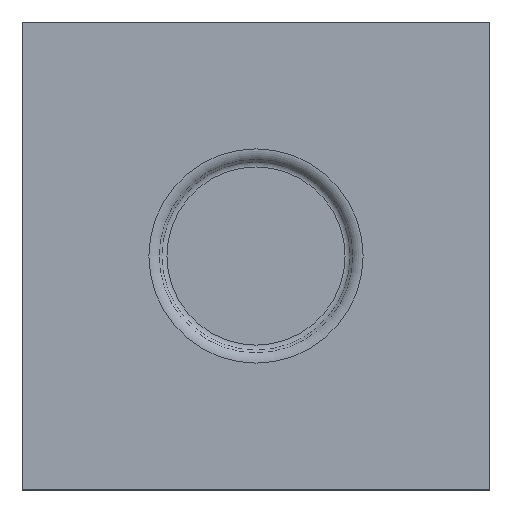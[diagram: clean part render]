
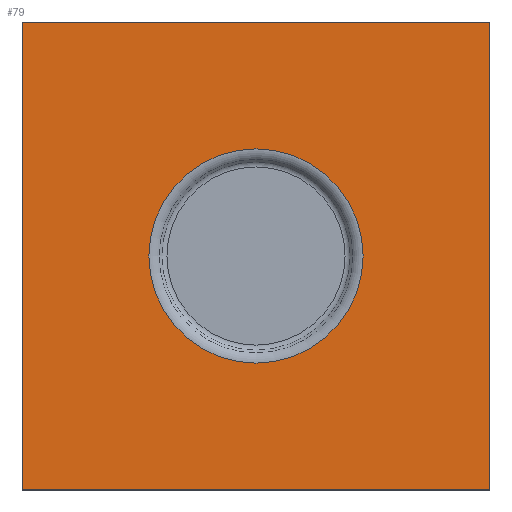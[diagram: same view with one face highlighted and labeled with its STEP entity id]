
A CAD part, top view. The second image highlights one B-rep face of the part: STEP entity #79.
In plain terms, the highlighted planar face has unit normal (0, 0, 1).
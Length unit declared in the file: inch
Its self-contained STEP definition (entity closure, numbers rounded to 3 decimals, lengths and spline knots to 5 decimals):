
#79=ADVANCED_FACE('',(#101,#102),#103,.T.);
#101=FACE_OUTER_BOUND('',#137,.T.);
#102=FACE_BOUND('',#138,.T.);
#103=PLANE('',#139);
#137=EDGE_LOOP('',(#181,#182,#183,#184));
#138=EDGE_LOOP('',(#185));
#139=AXIS2_PLACEMENT_3D('',#186,#187,#188);
#181=ORIENTED_EDGE('',*,*,#248,.T.);
#182=ORIENTED_EDGE('',*,*,#249,.T.);
#183=ORIENTED_EDGE('',*,*,#250,.T.);
#184=ORIENTED_EDGE('',*,*,#251,.T.);
#185=ORIENTED_EDGE('',*,*,#244,.F.);
#186=CARTESIAN_POINT('',(-1.24065,-0.51097,0.039));
#187=DIRECTION('',(0.0,0.0,1.0));
#188=DIRECTION('',(1.0,0.0,0.0));
#244=EDGE_CURVE('',#264,#264,#265,.T.);
#248=EDGE_CURVE('',#272,#273,#274,.F.);
#249=EDGE_CURVE('',#273,#275,#276,.F.);
#250=EDGE_CURVE('',#275,#277,#278,.F.);
#251=EDGE_CURVE('',#277,#272,#279,.F.);
#264=VERTEX_POINT('',#300);
#265=CIRCLE('',#301,0.45784);
#272=VERTEX_POINT('',#308);
#273=VERTEX_POINT('',#309);
#274=LINE('',#310,#311);
#275=VERTEX_POINT('',#312);
#276=LINE('',#313,#314);
#277=VERTEX_POINT('',#315);
#278=LINE('',#316,#317);
#279=LINE('',#318,#319);
#300=CARTESIAN_POINT('',(-0.78281,-0.51097,0.039));
#301=AXIS2_PLACEMENT_3D('',#348,#349,#350);
#308=CARTESIAN_POINT('',(-0.24065,-1.51097,0.039));
#309=CARTESIAN_POINT('',(-0.24065,0.48903,0.039));
#310=CARTESIAN_POINT('',(-0.24065,-0.51097,0.039));
#311=VECTOR('',#360,1.0);
#312=CARTESIAN_POINT('',(-2.24065,0.48903,0.039));
#313=CARTESIAN_POINT('',(-1.24065,0.48903,0.039));
#314=VECTOR('',#361,1.0);
#315=CARTESIAN_POINT('',(-2.24065,-1.51097,0.039));
#316=CARTESIAN_POINT('',(-2.24065,-0.51097,0.039));
#317=VECTOR('',#362,1.0);
#318=CARTESIAN_POINT('',(-1.24065,-1.51097,0.039));
#319=VECTOR('',#363,1.0);
#348=CARTESIAN_POINT('',(-1.24065,-0.51097,0.039));
#349=DIRECTION('',(0.0,0.0,1.0));
#350=DIRECTION('',(1.0,0.0,0.0));
#360=DIRECTION('',(0.0,-1.0,0.0));
#361=DIRECTION('',(1.0,0.0,0.0));
#362=DIRECTION('',(0.0,1.0,0.0));
#363=DIRECTION('',(-1.0,0.0,0.0));
